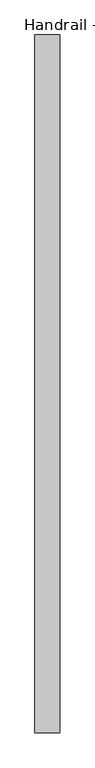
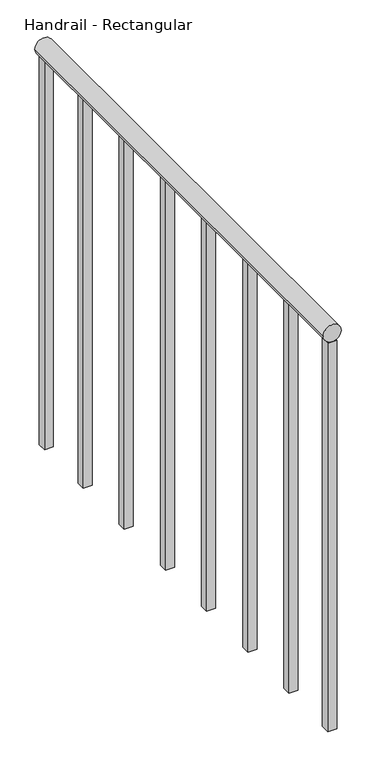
"""IFC4 building model written with IfcOpenShell, lengths in millimetres: railing geometry, Handrail - Rectangular."""

from ifc_helpers import new_model, si_unit, point, frame, frame_2d, origin, place, context, project, spatial, polyline, circle_curve, trimmed, segment, composite_curve, outline, extrude, source, transform, mapped, element, save


def handrail_rectangular_81c71ed5(model_context):
    return source(origin(), model_context, "Body", "SweptSolid", [
        extrude(outline(composite_curve([segment(trimmed(circle_curve(frame_2d((3943.35, 2297.1410437)), 19.05), [point((3943.35, 2316.1910437))], [point((3943.35, 2278.0910437))], False, "CARTESIAN"), True, "CONTINUOUS"), segment(trimmed(circle_curve(frame_2d((3943.35, 2297.1410437)), 19.05), [point((3943.35, 2278.0910437))], [point((3943.35, 2316.1910437))], False, "CARTESIAN"), True, "CONTINUOUS")], self_intersect=False)), frame((0.0, -35349.9683133, 0.0), z_axis=(0.0, 1.0, 0.0), x_axis=(0.0, 0.0, 1.0)), (0.0, 0.0, 1.0), 1066.8),
        extrude(outline(polyline([(2287.6160437, -34445.0933133), (2287.6160437, -34426.0433133), (2306.6660437, -34426.0433133), (2306.6660437, -34445.0933133), (2287.6160437, -34445.0933133)])), frame((0.0, 0.0, 3048.0), z_axis=(0.0, 0.0, 1.0), x_axis=(1.0, 0.0, 0.0)), (0.0, 0.0, 1.0), 876.3),
        extrude(outline(polyline([(2287.6160437, -34597.4933133), (2287.6160437, -34578.4433133), (2306.6660437, -34578.4433133), (2306.6660437, -34597.4933133), (2287.6160437, -34597.4933133)])), frame((0.0, 0.0, 3048.0), z_axis=(0.0, 0.0, 1.0), x_axis=(1.0, 0.0, 0.0)), (0.0, 0.0, 1.0), 876.3),
        extrude(outline(polyline([(2287.6160437, -34749.8933133), (2287.6160437, -34730.8433133), (2306.6660437, -34730.8433133), (2306.6660437, -34749.8933133), (2287.6160437, -34749.8933133)])), frame((0.0, 0.0, 3048.0), z_axis=(0.0, 0.0, 1.0), x_axis=(1.0, 0.0, 0.0)), (0.0, 0.0, 1.0), 876.3),
        extrude(outline(polyline([(2287.6160437, -34902.2933133), (2287.6160437, -34883.2433133), (2306.6660437, -34883.2433133), (2306.6660437, -34902.2933133), (2287.6160437, -34902.2933133)])), frame((0.0, 0.0, 3048.0), z_axis=(0.0, 0.0, 1.0), x_axis=(1.0, 0.0, 0.0)), (0.0, 0.0, 1.0), 876.3),
        extrude(outline(polyline([(2287.6160437, -35054.6933133), (2287.6160437, -35035.6433133), (2306.6660437, -35035.6433133), (2306.6660437, -35054.6933133), (2287.6160437, -35054.6933133)])), frame((0.0, 0.0, 3048.0), z_axis=(0.0, 0.0, 1.0), x_axis=(1.0, 0.0, 0.0)), (0.0, 0.0, 1.0), 876.3),
        extrude(outline(polyline([(2287.6160437, -35207.0933133), (2287.6160437, -35188.0433133), (2306.6660437, -35188.0433133), (2306.6660437, -35207.0933133), (2287.6160437, -35207.0933133)])), frame((0.0, 0.0, 3048.0), z_axis=(0.0, 0.0, 1.0), x_axis=(1.0, 0.0, 0.0)), (0.0, 0.0, 1.0), 876.3),
        extrude(outline(polyline([(2287.6160437, -34302.2183133), (2287.6160437, -34283.1683133), (2306.6660437, -34283.1683133), (2306.6660437, -34302.2183133), (2287.6160437, -34302.2183133)])), frame((0.0, 0.0, 3048.0), z_axis=(0.0, 0.0, 1.0), x_axis=(1.0, 0.0, 0.0)), (0.0, 0.0, 1.0), 876.3),
        extrude(outline(polyline([(2287.6160437, -35349.9683133), (2287.6160437, -35330.9183133), (2306.6660437, -35330.9183133), (2306.6660437, -35349.9683133), (2287.6160437, -35349.9683133)])), frame((0.0, 0.0, 3048.0), z_axis=(0.0, 0.0, 1.0), x_axis=(1.0, 0.0, 0.0)), (0.0, 0.0, 1.0), 876.3),
    ])


if __name__ == "__main__":
    model = new_model("IFC4")
    model_context = context("Model", 3, world=origin())
    ifc_project = project(units=[si_unit("LENGTHUNIT", "METRE", prefix="MILLI")], contexts=[model_context])
    site = spatial("IfcSite", under=ifc_project)
    building = spatial("IfcBuilding", under=site)
    placement = place(None, origin())
    handrail_rectangular_shape = handrail_rectangular_81c71ed5(model_context)
    element("IfcRailing", 1, ObjectType="Handrail - Rectangular", at=placement, inside=building, context=model_context, shape_type="MappedRepresentation", body=[
        mapped(handrail_rectangular_shape, transform((0.0, 0.0, 0.0), x_axis=(1.0, 0.0, 0.0), y_axis=(0.0, 1.0, 0.0), z_axis=(0.0, 0.0, 1.0))),
    ])
    save(model, "model.ifc")
